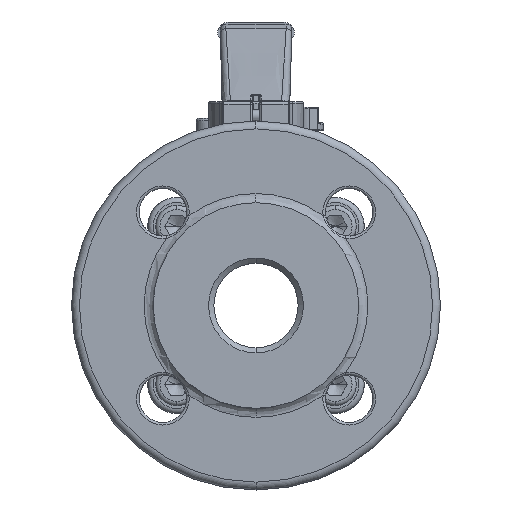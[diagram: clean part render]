
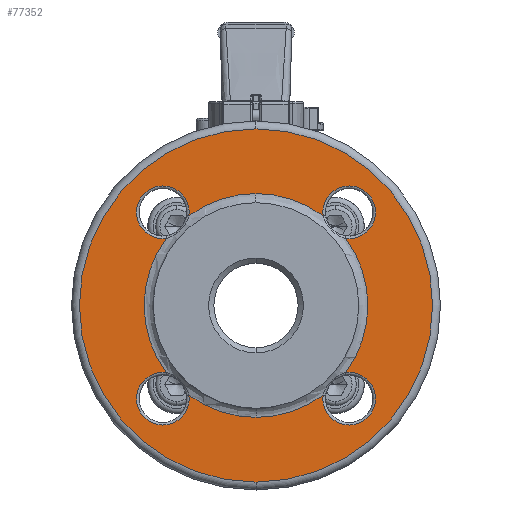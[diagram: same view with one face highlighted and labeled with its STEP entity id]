
A CAD part, left-side view. The second image highlights one B-rep face of the part: STEP entity #77352.
In plain terms, the highlighted planar face has unit normal (-1, 0, 0).
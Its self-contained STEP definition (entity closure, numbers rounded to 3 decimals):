
#16060=CARTESIAN_POINT('',(-48.,0.,0.));
#16061=DIRECTION('',(1.,0.,0.));
#16062=DIRECTION('',(0.,0.801,-0.599));
#16063=AXIS2_PLACEMENT_3D('',#16060,#16061,#16062);
#16065=CARTESIAN_POINT('',(-48.,0.,0.));
#16066=DIRECTION('',(1.,0.,0.));
#16067=DIRECTION('',(0.,0.,-1.));
#16068=AXIS2_PLACEMENT_3D('',#16065,#16066,#16067);
#16070=CARTESIAN_POINT('',(-48.,0.,0.));
#16071=DIRECTION('',(-1.,0.,0.));
#16072=DIRECTION('',(0.,0.,-1.));
#16073=AXIS2_PLACEMENT_3D('',#16070,#16071,#16072);
#16075=CARTESIAN_POINT('',(-48.,0.,0.));
#16076=DIRECTION('',(-1.,0.,0.));
#16077=DIRECTION('',(0.,-0.801,-0.599));
#16078=AXIS2_PLACEMENT_3D('',#16075,#16076,#16077);
#16080=CARTESIAN_POINT('',(-48.,0.,0.));
#16081=DIRECTION('',(-1.,0.,0.));
#16082=DIRECTION('',(0.,-0.599,0.801));
#16083=AXIS2_PLACEMENT_3D('',#16080,#16081,#16082);
#16085=CARTESIAN_POINT('',(-48.,0.,0.));
#16086=DIRECTION('',(1.,0.,0.));
#16087=DIRECTION('',(0.,0.599,0.801));
#16088=AXIS2_PLACEMENT_3D('',#16085,#16086,#16087);
#16095=CARTESIAN_POINT('',(-48.,0.,0.));
#16096=DIRECTION('',(1.,0.,0.));
#16097=DIRECTION('',(0.,0.,-1.));
#16098=AXIS2_PLACEMENT_3D('',#16095,#16096,#16097);
#16118=CARTESIAN_POINT('',(-48.,0.,0.));
#16119=DIRECTION('',(1.,0.,0.));
#16120=DIRECTION('',(0.,0.,1.));
#16121=AXIS2_PLACEMENT_3D('',#16118,#16119,#16120);
#16230=CARTESIAN_POINT('',(-48.,35.355,35.355));
#16231=DIRECTION('',(1.,0.,0.));
#16232=DIRECTION('',(0.,-0.136,-0.991));
#16233=AXIS2_PLACEMENT_3D('',#16230,#16231,#16232);
#16255=CARTESIAN_POINT('',(-48.,25.448,
33.994));
#16285=CARTESIAN_POINT('',(-48.,33.994,
25.448));
#16363=CARTESIAN_POINT('',(-48.,-35.355,35.355));
#16364=DIRECTION('',(1.,0.,0.));
#16365=DIRECTION('',(0.,0.991,-0.136));
#16366=AXIS2_PLACEMENT_3D('',#16363,#16364,#16365);
#16388=CARTESIAN_POINT('',(-48.,-33.994,
25.448));
#16418=CARTESIAN_POINT('',(-48.,-25.448,
33.994));
#16496=CARTESIAN_POINT('',(-48.,-25.448,
-33.994));
#16526=CARTESIAN_POINT('',(-48.,-33.994,
-25.448));
#16566=CARTESIAN_POINT('',(-48.,-35.355,-35.355));
#16567=DIRECTION('',(1.,0.,0.));
#16568=DIRECTION('',(0.,0.136,0.991));
#16569=AXIS2_PLACEMENT_3D('',#16566,#16567,#16568);
#16629=CARTESIAN_POINT('',(-48.,35.355,-35.355));
#16630=DIRECTION('',(1.,0.,0.));
#16631=DIRECTION('',(0.,-0.991,0.136));
#16632=AXIS2_PLACEMENT_3D('',#16629,#16630,#16631);
#16654=CARTESIAN_POINT('',(-48.,33.994,
-25.448));
#16684=CARTESIAN_POINT('',(-48.,25.448,
-33.994));
#43941=CARTESIAN_POINT('',(-48.,0.,-67.));
#43942=CARTESIAN_POINT('',(-48.,0.,67.));
#43943=VERTEX_POINT('',#43941);
#43944=VERTEX_POINT('',#43942);
#45534=VERTEX_POINT('',#16255);
#45535=VERTEX_POINT('',#16285);
#45550=VERTEX_POINT('',#16388);
#45551=VERTEX_POINT('',#16418);
#45563=VERTEX_POINT('',#16496);
#45564=VERTEX_POINT('',#16526);
#45583=VERTEX_POINT('',#16654);
#45584=VERTEX_POINT('',#16684);
#45596=CARTESIAN_POINT('',(-48.,0.,42.464));
#45597=VERTEX_POINT('',#45596);
#45598=CARTESIAN_POINT('',(-48.,0.,-42.464));
#45599=VERTEX_POINT('',#45598);
#77325=CARTESIAN_POINT('',(-48.,0.,0.));
#77326=DIRECTION('',(-1.,0.,0.));
#77327=DIRECTION('',(0.,0.,1.));
#77328=AXIS2_PLACEMENT_3D('',#77325,#77326,#77327);
#77329=PLANE('',#77328);
#77331=ORIENTED_EDGE('',*,*,#77330,.T.);
#77333=ORIENTED_EDGE('',*,*,#77332,.T.);
#77334=EDGE_LOOP('',(#77331,#77333));
#77335=FACE_OUTER_BOUND('',#77334,.F.);
#77337=ORIENTED_EDGE('',*,*,#77336,.F.);
#77338=ORIENTED_EDGE('',*,*,#77315,.F.);
#77340=ORIENTED_EDGE('',*,*,#77339,.F.);
#77341=ORIENTED_EDGE('',*,*,#77311,.F.);
#77342=ORIENTED_EDGE('',*,*,#77297,.T.);
#77344=ORIENTED_EDGE('',*,*,#77343,.F.);
#77345=ORIENTED_EDGE('',*,*,#77293,.T.);
#77347=ORIENTED_EDGE('',*,*,#77346,.F.);
#77348=ORIENTED_EDGE('',*,*,#77289,.T.);
#77349=ORIENTED_EDGE('',*,*,#77319,.F.);
#77350=EDGE_LOOP('',(#77337,#77338,#77340,#77341,#77342,#77344,#77345,#77347,
#77348,#77349));
#77351=FACE_BOUND('',#77350,.F.);
#77352=ADVANCED_FACE('',(#77335,#77351),#77329,.T.);
#16064=CIRCLE('',#16063,42.464);
#16069=CIRCLE('',#16068,42.464);
#16074=CIRCLE('',#16073,42.464);
#16079=CIRCLE('',#16078,42.464);
#16084=CIRCLE('',#16083,42.464);
#16089=CIRCLE('',#16088,42.464);
#16099=CIRCLE('',#16098,67.);
#16122=CIRCLE('',#16121,67.);
#16234=CIRCLE('',#16233,10.);
#16367=CIRCLE('',#16366,10.);
#16570=CIRCLE('',#16569,10.);
#16633=CIRCLE('',#16632,10.);
#77289=EDGE_CURVE('',#45551,#45597,#16084,.T.);
#77293=EDGE_CURVE('',#45564,#45550,#16079,.T.);
#77297=EDGE_CURVE('',#45599,#45563,#16074,.T.);
#77311=EDGE_CURVE('',#45599,#45584,#16069,.T.);
#77315=EDGE_CURVE('',#45583,#45535,#16064,.T.);
#77319=EDGE_CURVE('',#45534,#45597,#16089,.T.);
#77330=EDGE_CURVE('',#43943,#43944,#16099,.T.);
#77332=EDGE_CURVE('',#43944,#43943,#16122,.T.);
#77336=EDGE_CURVE('',#45535,#45534,#16234,.T.);
#77339=EDGE_CURVE('',#45584,#45583,#16633,.T.);
#77343=EDGE_CURVE('',#45564,#45563,#16570,.T.);
#77346=EDGE_CURVE('',#45551,#45550,#16367,.T.);
